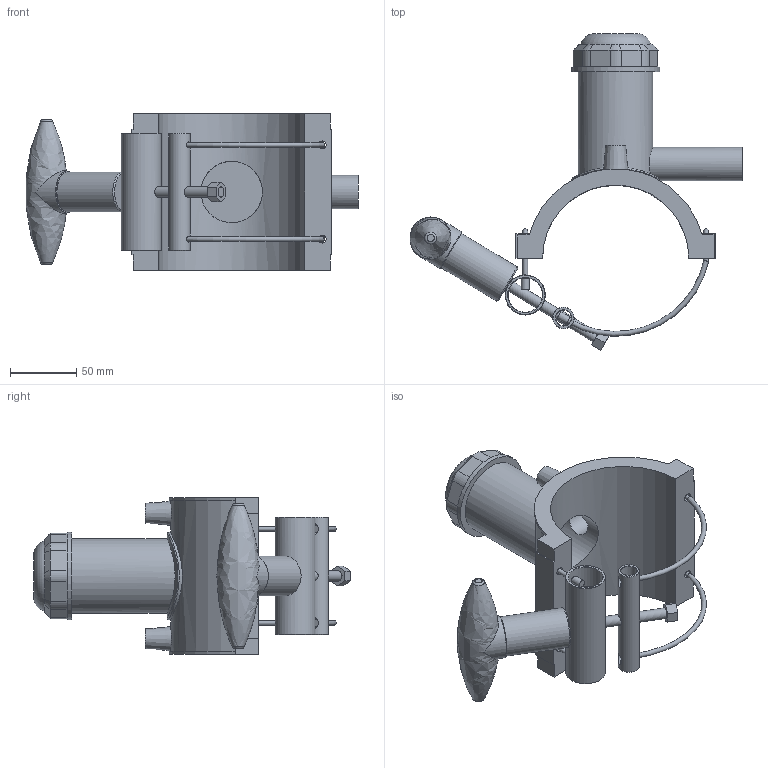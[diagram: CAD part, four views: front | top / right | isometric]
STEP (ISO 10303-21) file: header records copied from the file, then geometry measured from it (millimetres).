
FILE_DESCRIPTION(/* description */ ('PLASSON TAPPING SADDLE 110x25'),/* implementation_level */ '2;1');
FILE_NAME(/* name */ 'C:\Dropbox\99-16-3568-Processing\ElectroFusion Fittings\4963Q4 (new clamping)\4963Q4110025.ipt.stp',/* time_stamp */ '2021-03-07T12:50:22+02:00',/* author */ ('KIM'),/* organization */ (''),/* preprocessor_version */ 'ST-DEVELOPER v17.2',/* originating_system */ 'Autodesk Inventor 2019',/* authorisation */ '');
FILE_SCHEMA (('AUTOMOTIVE_DESIGN { 1 0 10303 214 3 1 1 }'));
Length unit declared in the file: millimetre
Products named in the file (1): 4963Q4110025
Bounding box: 249.68 x 238.16 x 118 mm (x, y, z)
Volume: 552099.2 mm3; surface area: 150361.2 mm2
Topology: 6 solids, 6 shells, 180 faces, 464 edges, 308 vertices
Faces by surface type: plane 87, cylinder 58, cone 19, torus 10, bspline 6
Full cylindrical faces by diameter (mm): 3.6 x5, 4 x4, 4.6 x2, 6 x8, 8 x2, 8.5 x2, 9 x2, 10 x2, 12 x1, 16 x1, 20 x1, 25 x1, 26 x1, 30 x2, 32 x1, 46.2 x1, 56.1 x1, 66 x2
Entity records: 7235 total; most frequent: CARTESIAN_POINT 2766, ORIENTED_EDGE 928, DIRECTION 882, EDGE_CURVE 464, AXIS2_PLACEMENT_3D 338, VERTEX_POINT 308, EDGE_LOOP 230, LINE 206
